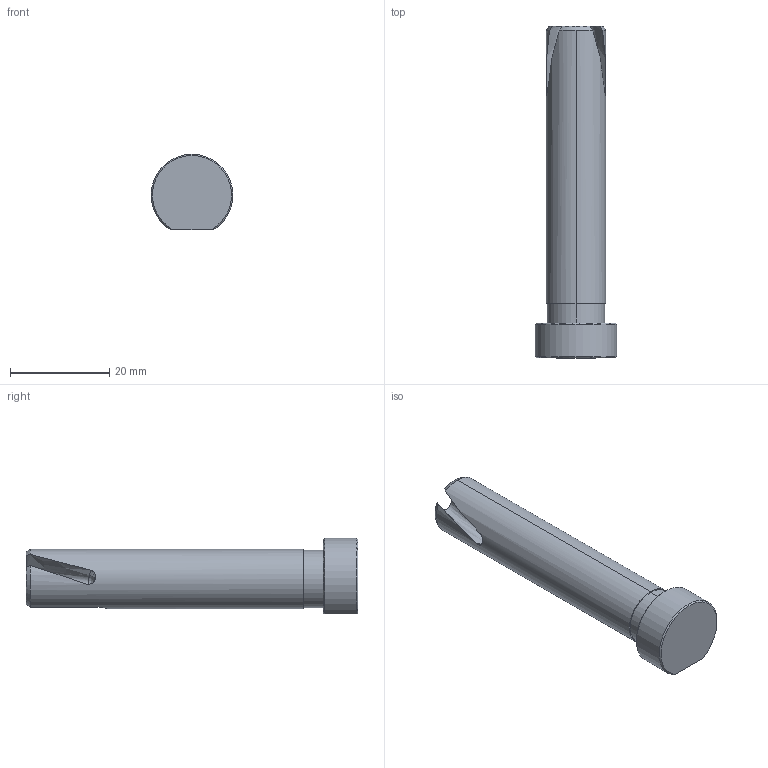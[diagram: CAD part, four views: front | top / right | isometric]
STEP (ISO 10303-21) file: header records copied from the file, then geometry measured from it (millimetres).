
FILE_DESCRIPTION (( 'STEP AP203' ), '1' );
FILE_NAME ('EGCP (P12.60.2-90).STEP', '2019-04-12T15:04:05', ( '' ), ( '' ), 'SwSTEP 2.0', 'SolidWorks 2018', '' );
FILE_SCHEMA (( 'CONFIG_CONTROL_DESIGN' ));
Length unit declared in the file: millimetre
Products named in the file (1): EGCP (P12.60.2-90)
Bounding box: 16.5 x 67 x 15.25 mm (x, y, z)
Volume: 7627.8 mm3; surface area: 3314.4 mm2
Topology: 1 solids, 1 shells, 32 faces, 91 edges, 62 vertices
Faces by surface type: plane 9, cylinder 8, bspline 8, cone 6, sphere 1
Entity records: 2421 total; most frequent: CARTESIAN_POINT 1597, ORIENTED_EDGE 180, DIRECTION 124, EDGE_CURVE 90, VERTEX_POINT 62, AXIS2_PLACEMENT_3D 53, B_SPLINE_CURVE_WITH_KNOTS 44, EDGE_LOOP 34
